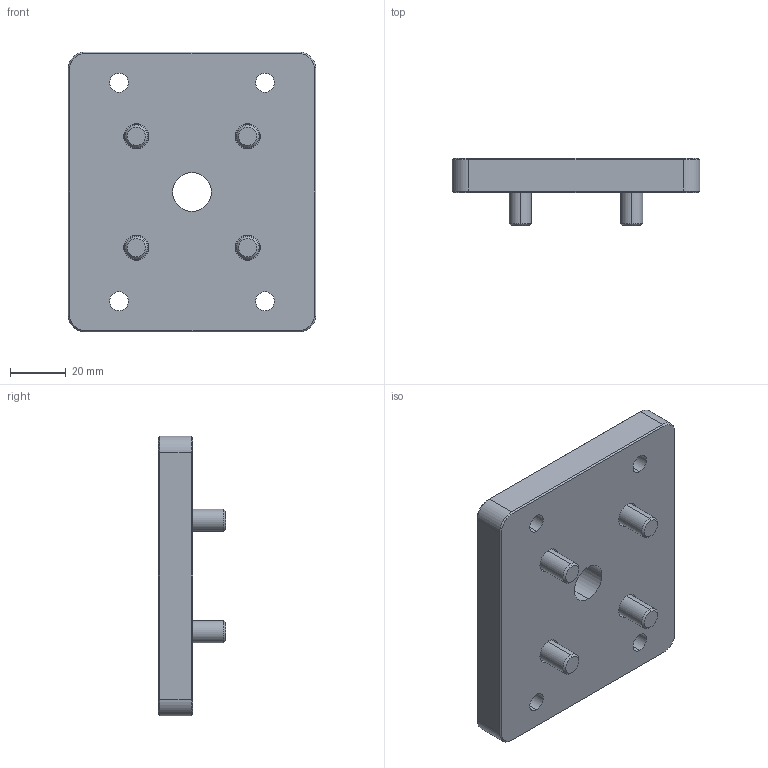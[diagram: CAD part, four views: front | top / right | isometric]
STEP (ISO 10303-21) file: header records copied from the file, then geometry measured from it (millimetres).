
FILE_DESCRIPTION (( 'STEP AP214' ), '1' );
FILE_NAME ('80x80 M16 Stem_HD Plate Caster Profile Mounting Kit C1 (40DCP-0501-003-02).STEP', '2025-06-05T20:11:22', ( '' ), ( '' ), 'SwSTEP 2.0', 'SolidWorks 2020', '' );
FILE_SCHEMA (( 'AUTOMOTIVE_DESIGN' ));
Length unit declared in the file: millimetre
Products named in the file (1): 80x80 M16 Stem_HD Plate Caster Profile Mounting Kit C1 (40DCP-0501-003-02)
Bounding box: 88.9 x 24.2 x 100.5 mm (x, y, z)
Volume: 106385.2 mm3; surface area: 28673.3 mm2
Topology: 5 solids, 5 shells, 182 faces, 402 edges, 234 vertices
Faces by surface type: plane 78, cone 50, cylinder 46, torus 8
Entity records: 7012 total; most frequent: DIRECTION 934, CARTESIAN_POINT 811, ORIENTED_EDGE 788, EDGE_CURVE 394, AXIS2_PLACEMENT_3D 357, VERTEX_POINT 234, VECTOR 220, LINE 220
